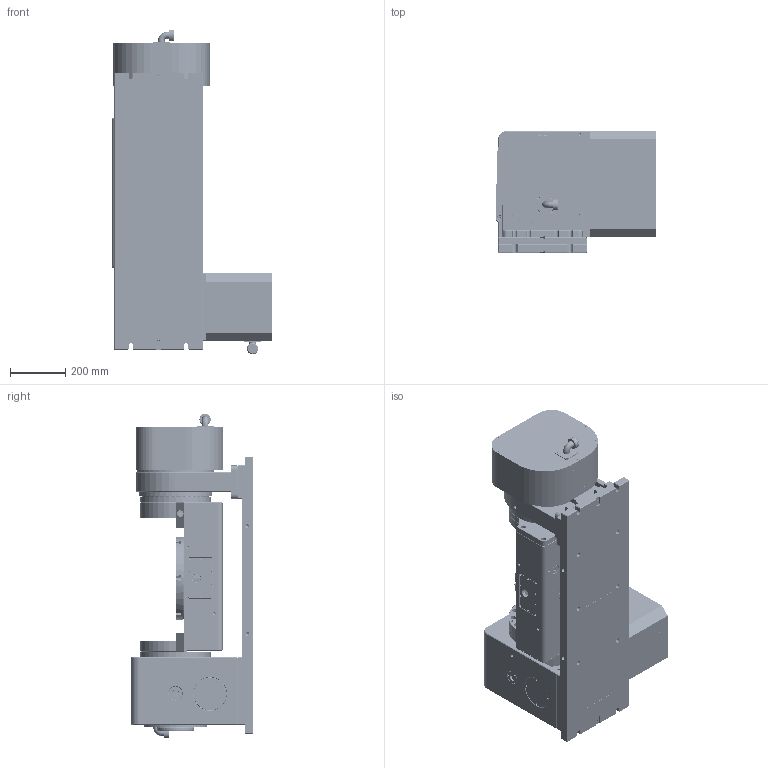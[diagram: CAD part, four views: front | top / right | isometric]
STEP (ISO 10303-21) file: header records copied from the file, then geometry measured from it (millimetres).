
FILE_DESCRIPTION (( 'STEP AP203' ), '1' );
FILE_NAME ('WDS-RT300 Íâ¹Û³ß´çÍ¼ REV.01.STEP', '2022-10-22T01:39:41', ( '' ), ( '' ), 'SwSTEP 2.0', 'SolidWorks 2021', '' );
FILE_SCHEMA (( 'CONFIG_CONTROL_DESIGN' ));
Products named in the file (1): WDS-RT300 俋夤喜渡芞 REV.01
Bounding box: 582.5 x 441 x 1175.5 mm (x, y, z)
Volume: 77351922.9 mm3; surface area: 5196370.9 mm2
Topology: 19 solids, 64 shells, 4183 faces, 9845 edges, 5971 vertices
Faces by surface type: cylinder 1877, plane 1325, cone 762, torus 168, bspline 48, sphere 3
Entity records: 127161 total; most frequent: CARTESIAN_POINT 29627, DIRECTION 21768, ORIENTED_EDGE 19002, EDGE_CURVE 9501, AXIS2_PLACEMENT_3D 8609, VERTEX_POINT 5971, EDGE_LOOP 5056, LINE 4550
